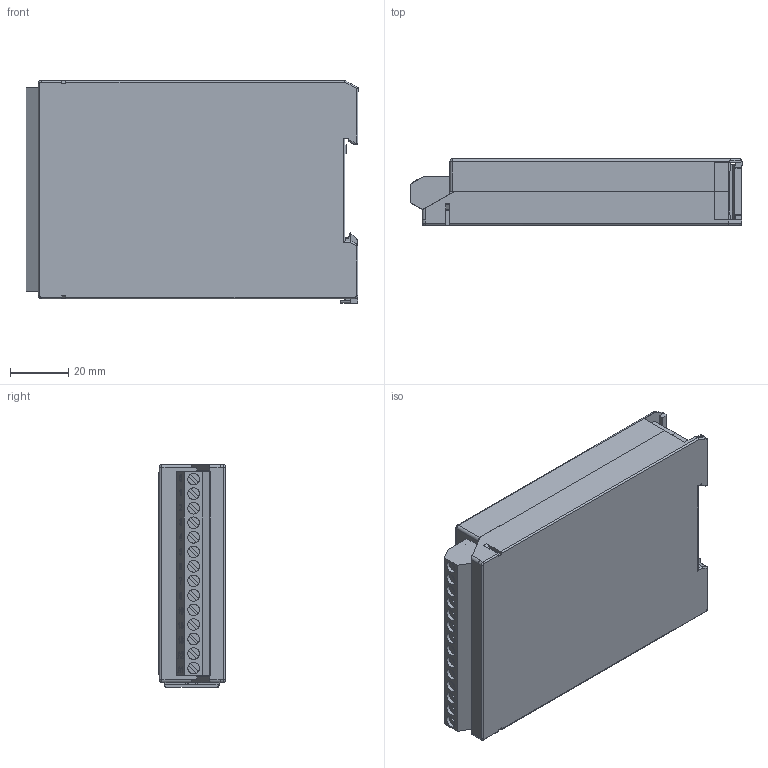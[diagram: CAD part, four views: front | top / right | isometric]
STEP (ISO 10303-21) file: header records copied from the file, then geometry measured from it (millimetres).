
FILE_DESCRIPTION (( 'STEP AP214' ), '1' );
FILE_NAME ('10630-1900-01_3D.STEP', '2017-12-06T09:52:34', ( '' ), ( '' ), 'SwSTEP 2.0', 'SolidWorks 2018', '' );
FILE_SCHEMA (( 'AUTOMOTIVE_DESIGN' ));
Length unit declared in the file: millimetre
Products named in the file (9): 10630-1900-01_3D; Kopie von 1045 1920 K-Deckel^10630-1900-01_3D; Kopie von K-Leiterpklatte 60 lang^10630-1900-01_3D; Kopie von 1045 1940 K-UT_3D^10630-1900-01_3D; Kopie von 10630-1200-01 ZIEHL_3D^10630-1900-01_3D; Kopie von 1063 1210_Klemmen_3D^10630-1900-01_3D; Kopie von 31147114^10630-1900-01_3D; Kopie von K-Riegel^10630-1900-01_3D; pan head cross recess screw_din_ISO 7045 - M3 x 4 - Z --- 4N
Assembly tree (8 placements, depth 2):
  10630-1900-01_3D
    Kopie von 1045 1940 K-UT_3D^10630-1900-01_3D
    Kopie von 1045 1920 K-Deckel^10630-1900-01_3D
    Kopie von K-Leiterpklatte 60 lang^10630-1900-01_3D
    Kopie von K-Riegel^10630-1900-01_3D
    pan head cross recess screw_din_ISO 7045 - M3 x 4 - Z --- 4N
    Kopie von 10630-1200-01 ZIEHL_3D^10630-1900-01_3D
    Kopie von 31147114^10630-1900-01_3D
    Kopie von 1063 1210_Klemmen_3D^10630-1900-01_3D
Bounding box: 114.22 x 22.9 x 76.65 mm (x, y, z)
Volume: 52603.1 mm3; surface area: 65182.4 mm2
Topology: 364 solids, 364 shells, 4564 faces, 11110 edges, 7330 vertices
Faces by surface type: plane 3601, bspline 710, cylinder 184, cone 27, sphere 22, torus 20
Full cylindrical faces by diameter (mm): 1 x14, 1.5 x7, 2.8 x2, 3 x12, 3.1 x14, 3.6 x1, 4 x14, 4.2 x1, 5.6 x1, 6 x1, 6.8 x1, 7 x1, 7.2 x1, 9 x1
Entity records: 155174 total; most frequent: CARTESIAN_POINT 46536, ORIENTED_EDGE 21904, DIRECTION 17570, EDGE_CURVE 10952, VECTOR 9036, LINE 9036, VERTEX_POINT 7303, EDGE_LOOP 4957
